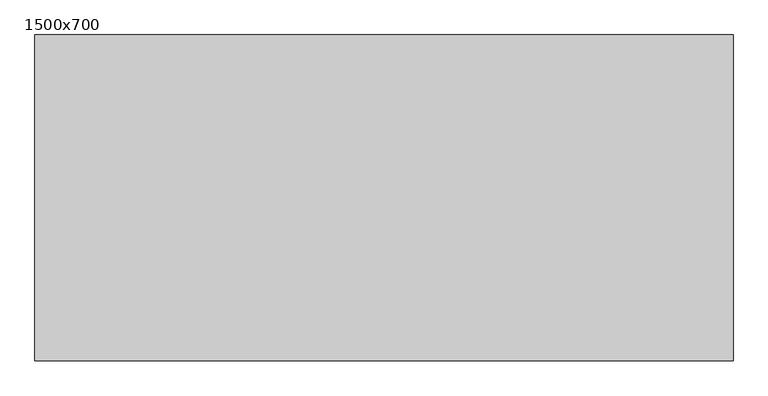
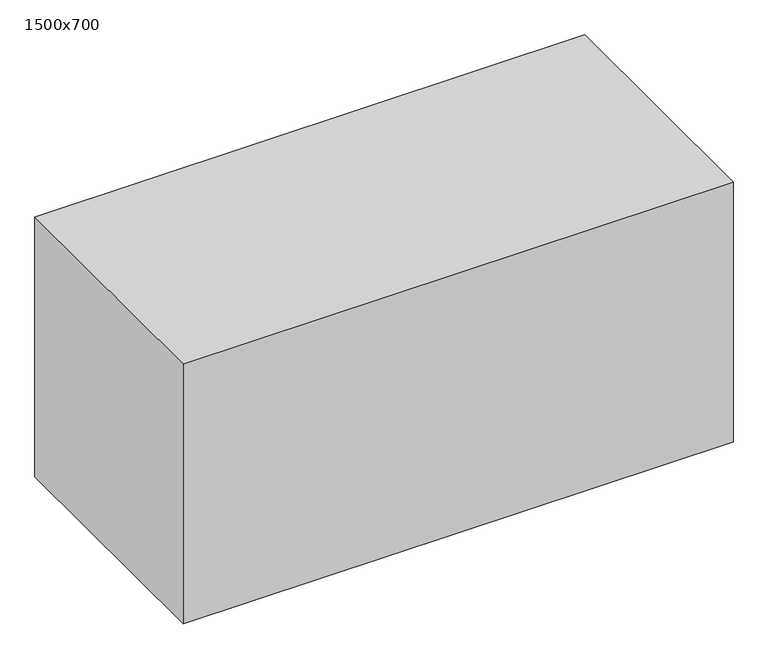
"""IFC4 building model written with IfcOpenShell, lengths in millimetres: furniture geometry, Fu_стол рабочий : 1500x700."""

from ifc_helpers import new_model, si_unit, origin, origin_with_axes, place, context, project, spatial, polyline, outline, extrude, source, transform, mapped, element, save


def furniture_1500x700_44764a8b(model_context):
    return source(origin(), model_context, "Body", "SweptSolid", [
        extrude(outline(polyline([(523.401892, 1616.7939624), (523.401892, 916.7939624), (-976.598108, 916.7939624), (-976.598108, 1616.7939624), (523.401892, 1616.7939624)])), origin_with_axes(), (0.0, 0.0, 1.0), 750.0),
    ])


if __name__ == "__main__":
    model = new_model("IFC4")
    model_context = context("Model", 3, world=origin())
    ifc_project = project(units=[si_unit("LENGTHUNIT", "METRE", prefix="MILLI")], contexts=[model_context])
    site = spatial("IfcSite", under=ifc_project)
    building = spatial("IfcBuilding", under=site)
    placement = place(None, origin())
    furniture_1500x700_shape = furniture_1500x700_44764a8b(model_context)
    element("IfcFurniture", 1, ObjectType="Fu_стол рабочий : 1500x700", at=placement, inside=building, context=model_context, shape_type="MappedRepresentation", body=[
        mapped(furniture_1500x700_shape, transform((0.0, 0.0, 0.0), x_axis=(1.0, 0.0, 0.0), y_axis=(0.0, 1.0, 0.0), z_axis=(0.0, 0.0, 1.0))),
    ])
    save(model, "model.ifc")
